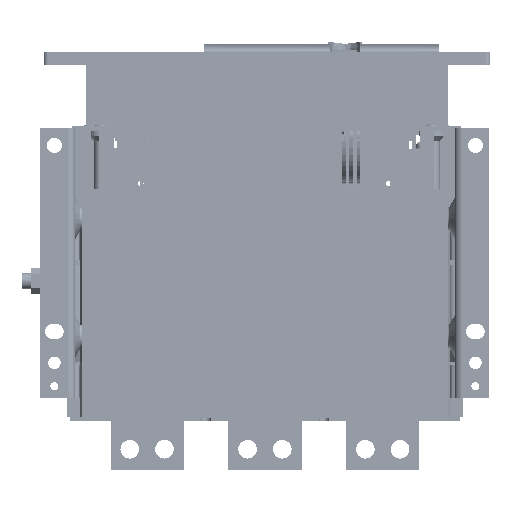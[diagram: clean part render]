
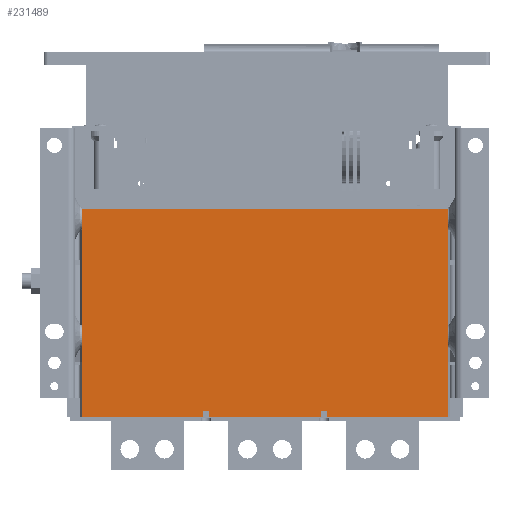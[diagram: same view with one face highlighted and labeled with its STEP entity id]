
A CAD part, front view. The second image highlights one B-rep face of the part: STEP entity #231489.
In plain terms, the highlighted planar face has unit normal (0, -1, 0) as drawn and (1, 0, 0) by its records, which use the part's own axes.
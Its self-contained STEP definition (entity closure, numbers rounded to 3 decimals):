
#730 = LINE ( 'NONE', #50368, #36487 ) ;
#1627 = ORIENTED_EDGE ( 'NONE', *, *, #127545, .T. ) ;
#1752 = ORIENTED_EDGE ( 'NONE', *, *, #129783, .F. ) ;
#2772 = VERTEX_POINT ( 'NONE', #177718 ) ;
#8665 = EDGE_CURVE ( 'NONE', #128576, #2772, #25461, .T. ) ;
#11846 = EDGE_CURVE ( 'NONE', #191515, #78347, #88444, .T. ) ;
#11924 = VECTOR ( 'NONE', #58992, 1000. ) ;
#14862 = ORIENTED_EDGE ( 'NONE', *, *, #11846, .T. ) ;
#17183 = DIRECTION ( 'NONE',  ( 0., 0., -1. ) ) ;
#21969 = EDGE_CURVE ( 'NONE', #41285, #50317, #57983, .T. ) ;
#25461 = LINE ( 'NONE', #156122, #140719 ) ;
#28989 = CARTESIAN_POINT ( 'NONE',  ( 358.258, -283.564, -122. ) ) ;
#29257 = ORIENTED_EDGE ( 'NONE', *, *, #76164, .T. ) ;
#32557 = VERTEX_POINT ( 'NONE', #172808 ) ;
#35768 = VECTOR ( 'NONE', #195349, 1000. ) ;
#36250 = CARTESIAN_POINT ( 'NONE',  ( 358.258, -91.064, -289.5 ) ) ;
#36487 = VECTOR ( 'NONE', #109662, 1000. ) ;
#39264 = ORIENTED_EDGE ( 'NONE', *, *, #8665, .T. ) ;
#39820 = CARTESIAN_POINT ( 'NONE',  ( 358.258, -283.564, -289.5 ) ) ;
#40370 = ORIENTED_EDGE ( 'NONE', *, *, #68888, .T. ) ;
#41285 = VERTEX_POINT ( 'NONE', #91019 ) ;
#43191 = LINE ( 'NONE', #206627, #11924 ) ;
#46557 = CARTESIAN_POINT ( 'NONE',  ( 358.258, -91.064, -289.5 ) ) ;
#50317 = VERTEX_POINT ( 'NONE', #28989 ) ;
#50368 = CARTESIAN_POINT ( 'NONE',  ( 358.258, 11.436, -289.5 ) ) ;
#50941 = CARTESIAN_POINT ( 'NONE',  ( 358.258, -186.064, -289.5 ) ) ;
#57093 = LINE ( 'NONE', #222894, #124091 ) ;
#57983 = LINE ( 'NONE', #39820, #127660 ) ;
#58992 = DIRECTION ( 'NONE',  ( 0., 0., -1. ) ) ;
#62101 = VECTOR ( 'NONE', #17183, 1000. ) ;
#63077 = VECTOR ( 'NONE', #162075, 1000. ) ;
#63176 = EDGE_LOOP ( 'NONE', ( #227536, #116382, #1627, #40370, #164318, #39264, #29257, #1752, #114149, #63911, #128793, #14862 ) ) ;
#63911 = ORIENTED_EDGE ( 'NONE', *, *, #74695, .T. ) ;
#68255 = EDGE_CURVE ( 'NONE', #180217, #217075, #90704, .T. ) ;
#68888 = EDGE_CURVE ( 'NONE', #113608, #212448, #57093, .T. ) ;
#68937 = CARTESIAN_POINT ( 'NONE',  ( 358.258, -186.064, -289.5 ) ) ;
#74066 = DIRECTION ( 'NONE',  ( 0., 1., 0. ) ) ;
#74695 = EDGE_CURVE ( 'NONE', #41285, #229755, #150565, .T. ) ;
#76164 = EDGE_CURVE ( 'NONE', #2772, #32557, #730, .T. ) ;
#78347 = VERTEX_POINT ( 'NONE', #138275 ) ;
#84663 = FACE_OUTER_BOUND ( 'NONE', #63176, .T. ) ;
#87256 = CARTESIAN_POINT ( 'NONE',  ( 358.258, -186.064, -285. ) ) ;
#88444 = LINE ( 'NONE', #87256, #215033 ) ;
#89065 = VECTOR ( 'NONE', #165679, 1000. ) ;
#89316 = AXIS2_PLACEMENT_3D ( 'NONE', #212936, #154865, #119777 ) ;
#90704 = LINE ( 'NONE', #181429, #89065 ) ;
#91019 = CARTESIAN_POINT ( 'NONE',  ( 358.258, -283.564, -289.5 ) ) ;
#95363 = CARTESIAN_POINT ( 'NONE',  ( 358.258, -91.064, -285. ) ) ;
#98567 = VECTOR ( 'NONE', #227952, 1000. ) ;
#100451 = CARTESIAN_POINT ( 'NONE',  ( 358.258, -86.064, -289.5 ) ) ;
#101696 = DIRECTION ( 'NONE',  ( 0., 1., 0. ) ) ;
#109662 = DIRECTION ( 'NONE',  ( 0., 0., 1. ) ) ;
#113608 = VERTEX_POINT ( 'NONE', #95363 ) ;
#114149 = ORIENTED_EDGE ( 'NONE', *, *, #21969, .F. ) ;
#116382 = ORIENTED_EDGE ( 'NONE', *, *, #68255, .T. ) ;
#119777 = DIRECTION ( 'NONE',  ( 0., 1., 0. ) ) ;
#124091 = VECTOR ( 'NONE', #74066, 1000. ) ;
#125287 = EDGE_CURVE ( 'NONE', #212448, #128576, #43191, .T. ) ;
#126736 = CARTESIAN_POINT ( 'NONE',  ( 358.258, -181.064, -289.5 ) ) ;
#127545 = EDGE_CURVE ( 'NONE', #217075, #113608, #139718, .T. ) ;
#127660 = VECTOR ( 'NONE', #129431, 1000. ) ;
#128576 = VERTEX_POINT ( 'NONE', #100451 ) ;
#128793 = ORIENTED_EDGE ( 'NONE', *, *, #202862, .T. ) ;
#129431 = DIRECTION ( 'NONE',  ( 0., 0., 1. ) ) ;
#129783 = EDGE_CURVE ( 'NONE', #50317, #32557, #148692, .T. ) ;
#136732 = PLANE ( 'NONE',  #89316 ) ;
#138275 = CARTESIAN_POINT ( 'NONE',  ( 358.258, -181.064, -285. ) ) ;
#139718 = LINE ( 'NONE', #46557, #35768 ) ;
#140719 = VECTOR ( 'NONE', #101696, 1000. ) ;
#141858 = LINE ( 'NONE', #145447, #62101 ) ;
#142861 = DIRECTION ( 'NONE',  ( 0., 1., 0. ) ) ;
#145447 = CARTESIAN_POINT ( 'NONE',  ( 358.258, -181.064, -285. ) ) ;
#148692 = LINE ( 'NONE', #190934, #214043 ) ;
#150565 = LINE ( 'NONE', #189235, #98567 ) ;
#154865 = DIRECTION ( 'NONE',  ( 1., 0., 0. ) ) ;
#156122 = CARTESIAN_POINT ( 'NONE',  ( 358.258, -86.064, -289.5 ) ) ;
#162075 = DIRECTION ( 'NONE',  ( 0., 0., 1. ) ) ;
#164318 = ORIENTED_EDGE ( 'NONE', *, *, #125287, .T. ) ;
#165679 = DIRECTION ( 'NONE',  ( 0., 1., 0. ) ) ;
#172808 = CARTESIAN_POINT ( 'NONE',  ( 358.258, 11.436, -122. ) ) ;
#175591 = EDGE_CURVE ( 'NONE', #78347, #180217, #141858, .T. ) ;
#177718 = CARTESIAN_POINT ( 'NONE',  ( 358.258, 11.436, -289.5 ) ) ;
#180217 = VERTEX_POINT ( 'NONE', #126736 ) ;
#181429 = CARTESIAN_POINT ( 'NONE',  ( 358.258, -181.064, -289.5 ) ) ;
#189235 = CARTESIAN_POINT ( 'NONE',  ( 358.258, -283.564, -289.5 ) ) ;
#190643 = CARTESIAN_POINT ( 'NONE',  ( 358.258, -186.064, -285. ) ) ;
#190934 = CARTESIAN_POINT ( 'NONE',  ( 358.258, -283.564, -122. ) ) ;
#191515 = VERTEX_POINT ( 'NONE', #190643 ) ;
#195349 = DIRECTION ( 'NONE',  ( 0., 0., 1. ) ) ;
#202862 = EDGE_CURVE ( 'NONE', #229755, #191515, #216543, .T. ) ;
#206627 = CARTESIAN_POINT ( 'NONE',  ( 358.258, -86.064, -285. ) ) ;
#212448 = VERTEX_POINT ( 'NONE', #222609 ) ;
#212936 = CARTESIAN_POINT ( 'NONE',  ( 358.258, 9.936, -200. ) ) ;
#214043 = VECTOR ( 'NONE', #224900, 1000. ) ;
#215033 = VECTOR ( 'NONE', #142861, 1000. ) ;
#216543 = LINE ( 'NONE', #68937, #63077 ) ;
#217075 = VERTEX_POINT ( 'NONE', #36250 ) ;
#222609 = CARTESIAN_POINT ( 'NONE',  ( 358.258, -86.064, -285. ) ) ;
#222894 = CARTESIAN_POINT ( 'NONE',  ( 358.258, -91.064, -285. ) ) ;
#224900 = DIRECTION ( 'NONE',  ( 0., 1., 0. ) ) ;
#227536 = ORIENTED_EDGE ( 'NONE', *, *, #175591, .T. ) ;
#227952 = DIRECTION ( 'NONE',  ( 0., 1., 0. ) ) ;
#229755 = VERTEX_POINT ( 'NONE', #50941 ) ;
#231489 = ADVANCED_FACE ( 'NONE', ( #84663 ), #136732, .T. ) ;
